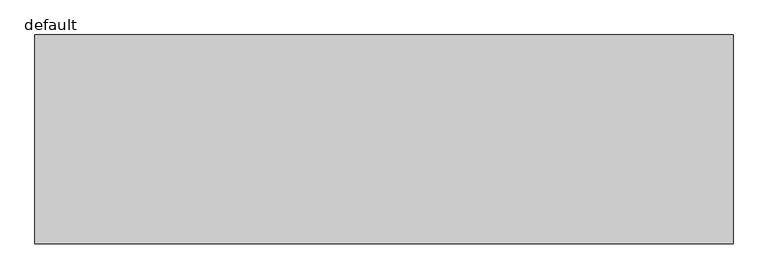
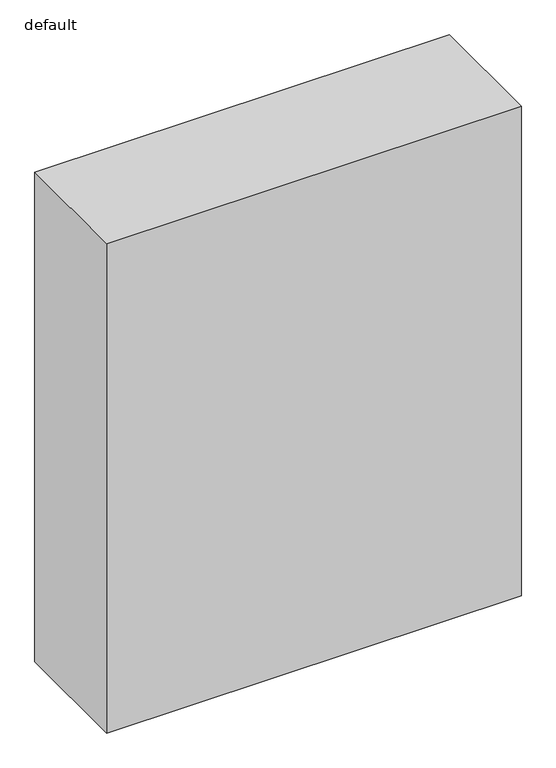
"""IFC4 building model written with IfcOpenShell, lengths in millimetres: furniture geometry, Fu_шкаф встроенный_LEG : default."""

import ifcopenshell
import ifcopenshell.guid

model = None  # the IFC model being written
_history = None  # IfcOwnerHistory: only IFC2X3 demands one
_inside = {}  # id of a spatial element -> (the spatial element, [elements in it])
_under = {}  # id of a project, library or spatial element -> (it, [spatial elements below it])
_declared = {}  # id of a project -> (the project, [libraries it declares])
_typed = {}  # id of a type object -> (the type object, [elements of that type])
_made_of = {}  # id of a material, layer set ... -> (it, [elements and type objects made of it])


def new_model(schema):
    """Start an empty IFC model of exactly this schema.

    Asked for "IFC4X3", IfcOpenShell would pick the latest addendum, in which some entities
    have other attributes; the version numbers below select the first issue.
    IFC2X3 requires an IfcOwnerHistory on every rooted entity: one is made here for all.
    """
    global model, _history
    if schema == "IFC4X3":
        model = ifcopenshell.file(schema_version=(4, 3, 0, 0))
    else:
        model = ifcopenshell.file(schema=schema)
    _inside.clear()
    _under.clear()
    _declared.clear()
    _typed.clear()
    _made_of.clear()
    _history = None
    if model.schema == "IFC2X3":
        org = make("IfcOrganization", Name="unknown")
        user = make(
            "IfcPersonAndOrganization",
            ThePerson=make("IfcPerson", FamilyName="unknown"),
            TheOrganization=org,
        )
        app = make(
            "IfcApplication",
            ApplicationDeveloper=org,
            Version="unknown",
            ApplicationFullName="unknown",
            ApplicationIdentifier="unknown",
        )
        _history = make(
            "IfcOwnerHistory",
            OwningUser=user,
            OwningApplication=app,
            ChangeAction="ADDED",
            CreationDate=0,
        )
    return model


def make(cls, **values):
    """One entity of the class cls with the attributes given. An attribute that is None is left unset."""
    return model.create_entity(
        cls, **{name: value for name, value in values.items() if value is not None}
    )


def rooted(cls, **values):
    """An entity with a GlobalId (a new one), such as an element, a storey or a relation."""
    return make(cls, GlobalId=ifcopenshell.guid.new(), OwnerHistory=_history, **values)


def si_unit(unit_type, name, prefix=None):
    """IfcSIUnit, for example si_unit("LENGTHUNIT", "METRE", prefix="MILLI")."""
    return make("IfcSIUnit", UnitType=unit_type, Prefix=prefix, Name=name)


def assignment(units):
    """IfcUnitAssignment: the units of a project."""
    return None if units is None else make("IfcUnitAssignment", Units=units)


def point(xyz):
    """IfcCartesianPoint."""
    return None if xyz is None else make("IfcCartesianPoint", Coordinates=xyz)


def direction(xyz):
    """IfcDirection."""
    return None if xyz is None else make("IfcDirection", DirectionRatios=xyz)


def frame(location, z_axis=None, x_axis=None):
    """IfcAxis2Placement3D, a coordinate frame: its origin and axes. An axis left out is left unset."""
    return make(
        "IfcAxis2Placement3D",
        Location=point(location),
        Axis=direction(z_axis),
        RefDirection=direction(x_axis),
    )


def origin():
    """The frame at (0, 0, 0) with its axes left unset."""
    return frame((0.0, 0.0, 0.0))


def origin_with_axes():
    """The frame at (0, 0, 0) with the z axis (0, 0, 1) and the x axis (1, 0, 0) written out."""
    return frame((0.0, 0.0, 0.0), z_axis=(0.0, 0.0, 1.0), x_axis=(1.0, 0.0, 0.0))


def place(relative_to, where):
    """IfcLocalPlacement: puts the frame where relative to a parent placement (None: the world)."""
    return make(
        "IfcLocalPlacement", PlacementRelTo=relative_to, RelativePlacement=where
    )


def context(
    kind, dimensions, precision=None, world=None, true_north=None, identifier=None
):
    """IfcGeometricRepresentationContext, for example the 3D "Model" context."""
    return make(
        "IfcGeometricRepresentationContext",
        ContextIdentifier=identifier,
        ContextType=kind,
        CoordinateSpaceDimension=dimensions,
        Precision=precision,
        WorldCoordinateSystem=world,
        TrueNorth=true_north,
    )


def project(units=None, contexts=None):
    """IfcProject with its units and contexts."""
    return rooted(
        "IfcProject",
        Name="project",
        RepresentationContexts=contexts,
        UnitsInContext=assignment(units),
    )


def spatial(cls, under=None, at=None, **own):
    """A site, building, storey or space (cls), placed at a placement, below another one or the project."""
    s = rooted(cls, ObjectPlacement=at, **own)
    if under is not None:
        _under.setdefault(under.id(), (under, []))[1].append(s)
    return s


def polyline(points):
    """IfcPolyline through the points."""
    return make("IfcPolyline", Points=[point(p) for p in points])


def outline(outer, holes=None, kind="AREA"):
    """IfcArbitraryClosedProfileDef: a profile drawn as a closed curve; with holes, ...WithVoids."""
    if holes is None:
        return make("IfcArbitraryClosedProfileDef", ProfileType=kind, OuterCurve=outer)
    return make(
        "IfcArbitraryProfileDefWithVoids",
        ProfileType=kind,
        OuterCurve=outer,
        InnerCurves=holes,
    )


def extrude(swept, where, along, depth):
    """IfcExtrudedAreaSolid: the profile swept, set in the frame where, extruded along a direction by depth."""
    return make(
        "IfcExtrudedAreaSolid",
        SweptArea=swept,
        Position=where,
        ExtrudedDirection=direction(along),
        Depth=depth,
    )


def shape(context_of_items, identifier, shape_type, items):
    """IfcShapeRepresentation: the items that make up one representation, for example the "Body"."""
    return make(
        "IfcShapeRepresentation",
        ContextOfItems=context_of_items,
        RepresentationIdentifier=identifier,
        RepresentationType=shape_type,
        Items=items,
    )


def source(mapping_origin, context_of_items, identifier, shape_type, items):
    """IfcRepresentationMap: a shape defined once, which mapped items show again and again."""
    return make(
        "IfcRepresentationMap",
        MappingOrigin=mapping_origin,
        MappedRepresentation=shape(context_of_items, identifier, shape_type, items),
    )


def transform(
    local_origin,
    x_axis=None,
    y_axis=None,
    z_axis=None,
    scale=None,
    scale2=None,
    scale3=None,
    uniform=True,
):
    """IfcCartesianTransformationOperator3D, or its non-uniform kind. x_axis, y_axis, z_axis: its Axis1, 2, 3."""
    if uniform:
        return make(
            "IfcCartesianTransformationOperator3D",
            Axis1=direction(x_axis),
            Axis2=direction(y_axis),
            LocalOrigin=point(local_origin),
            Scale=scale,
            Axis3=direction(z_axis),
        )
    return make(
        "IfcCartesianTransformationOperator3DnonUniform",
        Axis1=direction(x_axis),
        Axis2=direction(y_axis),
        LocalOrigin=point(local_origin),
        Scale=scale,
        Axis3=direction(z_axis),
        Scale2=scale2,
        Scale3=scale3,
    )


def mapped(mapping_source, mapping_target):
    """IfcMappedItem: shows the shape of a source again, moved by a transform."""
    return make(
        "IfcMappedItem", MappingSource=mapping_source, MappingTarget=mapping_target
    )


def made_of(thing, what):
    """Note that an element or type object is made of a material, layer set ...; save() writes the relation."""
    if what is not None:
        _made_of.setdefault(what.id(), (what, []))[1].append(thing)
    return thing


def element(
    cls,
    number,
    at=None,
    inside=None,
    cuts=None,
    type_object=None,
    material=None,
    context=None,
    identifier="Body",
    shape_type=None,
    held_by="IfcProductDefinitionShape",
    body=None,
    shapes=None,
    **own,
):
    """One element of the class cls, such as IfcWall. Its Tag is "e" and its number.

    at: its placement. inside: the storey or other place that contains it. cuts: it is an
    opening in that element (IfcRelVoidsElement). A single representation is given by context,
    identifier, shape_type and body (its items); several are given by shapes. held_by: the class
    of the entity that holds the representations. save() writes the other relations.
    """
    e = rooted(cls, Tag="e%d" % number, ObjectPlacement=at, **own)
    if body is not None:
        shapes = [shape(context, identifier, shape_type, body)]
    if shapes is not None:
        e.Representation = make(held_by, Representations=shapes)
    if inside is not None:
        _inside.setdefault(inside.id(), (inside, []))[1].append(e)
    if cuts is not None:
        rooted(
            "IfcRelVoidsElement", RelatingBuildingElement=cuts, RelatedOpeningElement=e
        )
    if type_object is not None:
        _typed.setdefault(type_object.id(), (type_object, []))[1].append(e)
    return made_of(e, material)


def aggregate(whole, parts):
    """IfcRelAggregates: a whole, such as a stair, and the parts it consists of."""
    return rooted("IfcRelAggregates", RelatingObject=whole, RelatedObjects=parts)


def save(model, path):
    """Write the relations noted so far, then the file.

    IfcRelAggregates (storeys below a building ...), IfcRelContainedInSpatialStructure (elements
    in a storey), IfcRelDefinesByType, IfcRelAssociatesMaterial and IfcRelDeclares: one each for
    every whole, place, type object, material and project.
    """
    for whole, parts in _under.values():
        aggregate(whole, parts)
    for where, things in _inside.values():
        rooted(
            "IfcRelContainedInSpatialStructure",
            RelatedElements=things,
            RelatingStructure=where,
        )
    for kind, things in _typed.values():
        rooted("IfcRelDefinesByType", RelatedObjects=things, RelatingType=kind)
    for what, things in _made_of.values():
        rooted("IfcRelAssociatesMaterial", RelatedObjects=things, RelatingMaterial=what)
    for by, libraries in _declared.values():
        rooted("IfcRelDeclares", RelatingContext=by, RelatedDefinitions=libraries)
    model.write(path)


def default_b709d490(model_context):
    return source(origin(), model_context, "Body", "SweptSolid", [
        extrude(outline(polyline([(2004.567897, 0.0), (0.0, 0.0), (0.0, 600.0), (2004.567897, 600.0), (2004.567897, 0.0)])), origin_with_axes(), (0.0, 0.0, 1.0), 2500.0),
    ])


if __name__ == "__main__":
    model = new_model("IFC4")
    model_context = context("Model", 3, world=origin())
    ifc_project = project(units=[si_unit("LENGTHUNIT", "METRE", prefix="MILLI")], contexts=[model_context])
    site = spatial("IfcSite", under=ifc_project)
    building = spatial("IfcBuilding", under=site)
    placement = place(None, origin())
    default_shape = default_b709d490(model_context)
    element("IfcFurniture", 1, ObjectType="Fu_шкаф встроенный_LEG : default", at=placement, inside=building, context=model_context, shape_type="MappedRepresentation", body=[
        mapped(default_shape, transform((0.0, 0.0, 0.0), x_axis=(1.0, 0.0, 0.0), y_axis=(0.0, 1.0, 0.0), z_axis=(0.0, 0.0, 1.0))),
    ])
    save(model, "model.ifc")
